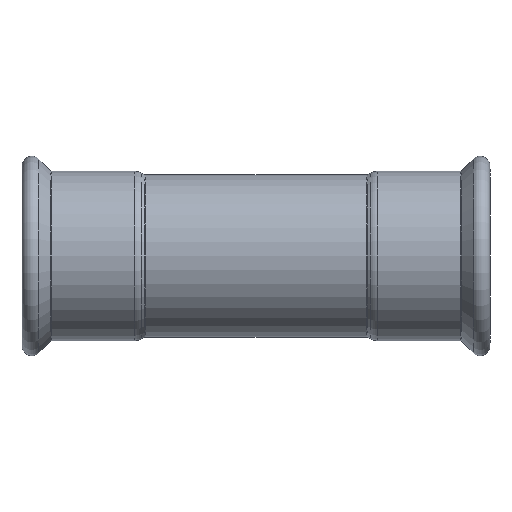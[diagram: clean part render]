
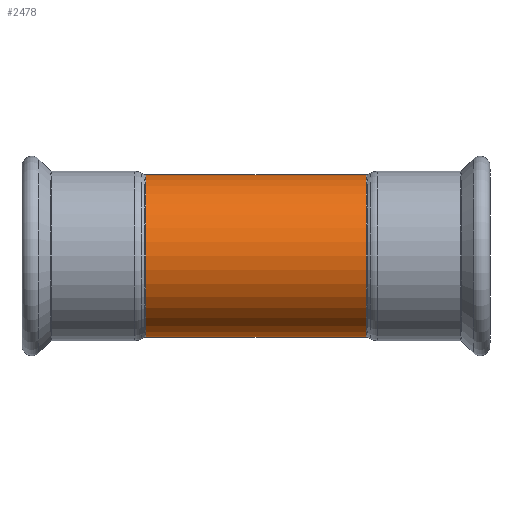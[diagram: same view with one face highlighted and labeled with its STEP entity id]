
A CAD part, front view. The second image highlights one B-rep face of the part: STEP entity #2478.
In plain terms, the highlighted cylindrical face has radius 53.5 mm (diameter 107 mm), a partial arc.
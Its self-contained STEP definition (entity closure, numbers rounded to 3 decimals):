
#37 = VERTEX_POINT ( 'NONE', #1081 ) ;
#165 = CARTESIAN_POINT ( 'NONE',  ( 27.146, 0., -53.5 ) ) ;
#199 = CARTESIAN_POINT ( 'NONE',  ( 72.868, 0., 53.5 ) ) ;
#209 = VECTOR ( 'NONE', #813, 1000. ) ;
#477 = DIRECTION ( 'NONE',  ( -1., 0., 0. ) ) ;
#813 = DIRECTION ( 'NONE',  ( -1., 0., 0. ) ) ;
#897 = DIRECTION ( 'NONE',  ( -1., 0., 0. ) ) ;
#976 = ORIENTED_EDGE ( 'NONE', *, *, #3258, .T. ) ;
#997 = VERTEX_POINT ( 'NONE', #199 ) ;
#1081 = CARTESIAN_POINT ( 'NONE',  ( -72.868, 0., 53.5 ) ) ;
#1263 = LINE ( 'NONE', #3839, #209 ) ;
#1324 = ORIENTED_EDGE ( 'NONE', *, *, #3582, .T. ) ;
#1358 = EDGE_CURVE ( 'NONE', #1667, #37, #3961, .T. ) ;
#1580 = CARTESIAN_POINT ( 'NONE',  ( 27.146, 0., 0. ) ) ;
#1641 = FACE_OUTER_BOUND ( 'NONE', #2304, .T. ) ;
#1667 = VERTEX_POINT ( 'NONE', #3012 ) ;
#2121 = DIRECTION ( 'NONE',  ( 0., 0., 1. ) ) ;
#2304 = EDGE_LOOP ( 'NONE', ( #4225, #1324, #976, #3609 ) ) ;
#2355 = CARTESIAN_POINT ( 'NONE',  ( 72.868, 0., -53.5 ) ) ;
#2478 = ADVANCED_FACE ( 'NONE', ( #1641 ), #3824, .T. ) ;
#2857 = DIRECTION ( 'NONE',  ( 0., 0., 1. ) ) ;
#2874 = CARTESIAN_POINT ( 'NONE',  ( 72.868, 0., 0. ) ) ;
#2975 = AXIS2_PLACEMENT_3D ( 'NONE', #2874, #477, #2857 ) ;
#3012 = CARTESIAN_POINT ( 'NONE',  ( -72.868, 0., -53.5 ) ) ;
#3040 = VERTEX_POINT ( 'NONE', #2355 ) ;
#3117 = LINE ( 'NONE', #165, #4275 ) ;
#3127 = DIRECTION ( 'NONE',  ( -1., 0., 0. ) ) ;
#3211 = AXIS2_PLACEMENT_3D ( 'NONE', #3457, #3127, #2121 ) ;
#3258 = EDGE_CURVE ( 'NONE', #997, #37, #1263, .T. ) ;
#3263 = DIRECTION ( 'NONE',  ( 0., 0., 1. ) ) ;
#3386 = AXIS2_PLACEMENT_3D ( 'NONE', #1580, #897, #3263 ) ;
#3457 = CARTESIAN_POINT ( 'NONE',  ( -72.868, 0., 0. ) ) ;
#3483 = EDGE_CURVE ( 'NONE', #3040, #1667, #3117, .T. ) ;
#3582 = EDGE_CURVE ( 'NONE', #3040, #997, #4127, .T. ) ;
#3609 = ORIENTED_EDGE ( 'NONE', *, *, #1358, .F. ) ;
#3824 = CYLINDRICAL_SURFACE ( 'NONE', #3386, 53.5 ) ;
#3839 = CARTESIAN_POINT ( 'NONE',  ( 27.146, 0., 53.5 ) ) ;
#3847 = DIRECTION ( 'NONE',  ( -1., 0., 0. ) ) ;
#3961 = CIRCLE ( 'NONE', #3211, 53.5 ) ;
#4127 = CIRCLE ( 'NONE', #2975, 53.5 ) ;
#4225 = ORIENTED_EDGE ( 'NONE', *, *, #3483, .F. ) ;
#4275 = VECTOR ( 'NONE', #3847, 1000. ) ;
